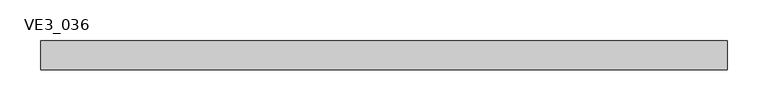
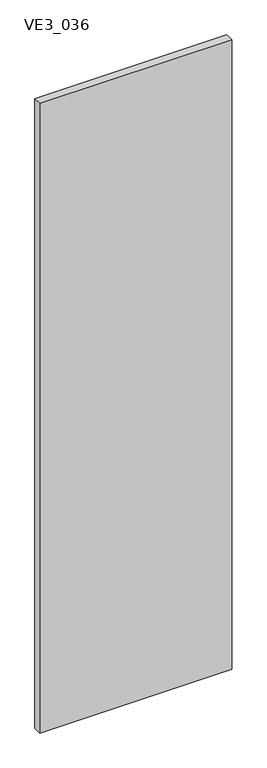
"""IFC4 building model written with IfcOpenShell, lengths in millimetres: plate geometry, TRP_CP_ARC_PF_RE_SE : VE3_036."""

from ifc_helpers import new_model, si_unit, frame, origin, place, context, project, spatial, polyline, outline, extrude, source, transform, mapped, element, save


def ve3_036_d15efc4c(model_context):
    return source(origin(), model_context, "Body", "SweptSolid", [
        extrude(outline(polyline([(423.0, 18.0), (423.0, -18.0), (-423.0, -18.0), (-423.0, 18.0), (423.0, 18.0)])), frame((0.0, 0.0, -3.1739529), z_axis=(0.0, 0.0, 1.0), x_axis=(1.0, 0.0, 0.0)), (0.0, 0.0, 1.0), 2933.1739529),
    ])


if __name__ == "__main__":
    model = new_model("IFC4")
    model_context = context("Model", 3, world=origin())
    ifc_project = project(units=[si_unit("LENGTHUNIT", "METRE", prefix="MILLI")], contexts=[model_context])
    site = spatial("IfcSite", under=ifc_project)
    building = spatial("IfcBuilding", under=site)
    placement = place(None, origin())
    ve3_036_shape = ve3_036_d15efc4c(model_context)
    element("IfcPlate", 1, ObjectType="TRP_CP_ARC_PF_RE_SE : VE3_036", at=placement, inside=building, context=model_context, shape_type="MappedRepresentation", body=[
        mapped(ve3_036_shape, transform((0.0, 0.0, 0.0), x_axis=(1.0, 0.0, 0.0), y_axis=(0.0, 1.0, 0.0), z_axis=(0.0, 0.0, 1.0))),
    ])
    save(model, "model.ifc")
